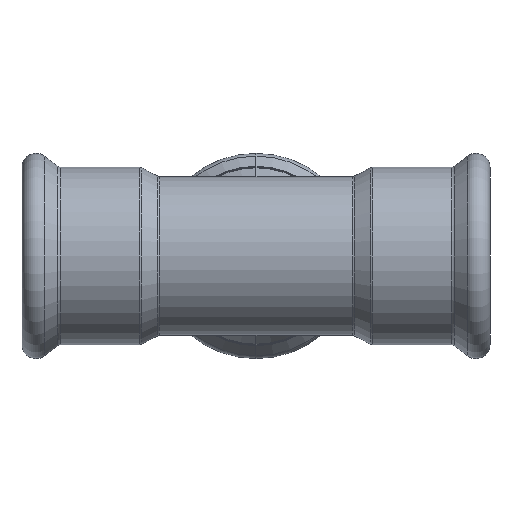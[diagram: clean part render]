
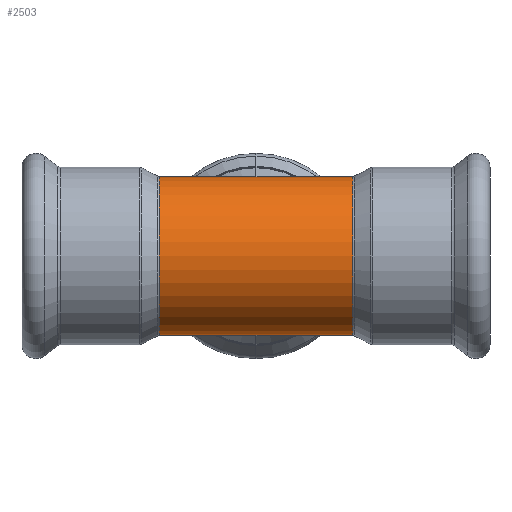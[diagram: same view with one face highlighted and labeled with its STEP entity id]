
A CAD part, front view. The second image highlights one B-rep face of the part: STEP entity #2503.
In plain terms, the highlighted cylindrical face has radius 17.15 mm (diameter 34.3 mm), a partial arc.
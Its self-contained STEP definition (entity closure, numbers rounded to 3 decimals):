
#130 = VERTEX_POINT ( 'NONE', #4065 ) ;
#136 = ORIENTED_EDGE ( 'NONE', *, *, #3514, .T. ) ;
#272 = DIRECTION ( 'NONE',  ( 0., 0., 1. ) ) ;
#324 = VECTOR ( 'NONE', #2237, 1000. ) ;
#467 = CIRCLE ( 'NONE', #1486, 17.15 ) ;
#665 = VECTOR ( 'NONE', #1579, 1000. ) ;
#697 = DIRECTION ( 'NONE',  ( 0., 0., 1. ) ) ;
#772 = CARTESIAN_POINT ( 'NONE',  ( -20.877, 0., 0. ) ) ;
#955 = CARTESIAN_POINT ( 'NONE',  ( 0., 0., -17.15 ) ) ;
#1009 = CARTESIAN_POINT ( 'NONE',  ( 0., 0., -17.15 ) ) ;
#1116 = CARTESIAN_POINT ( 'NONE',  ( 20.877, 0., -17.15 ) ) ;
#1153 = VECTOR ( 'NONE', #1985, 1000. ) ;
#1270 = FACE_OUTER_BOUND ( 'NONE', #1453, .T. ) ;
#1275 = EDGE_CURVE ( 'NONE', #2415, #2097, #2601, .T. ) ;
#1286 = CARTESIAN_POINT ( 'NONE',  ( 0., 0., 17.15 ) ) ;
#1357 = DIRECTION ( 'NONE',  ( -1., 0., 0. ) ) ;
#1453 = EDGE_LOOP ( 'NONE', ( #1998, #3942, #136, #2999, #2068, #3643 ) ) ;
#1486 = AXIS2_PLACEMENT_3D ( 'NONE', #772, #1693, #1720 ) ;
#1579 = DIRECTION ( 'NONE',  ( -1., 0., 0. ) ) ;
#1678 = EDGE_CURVE ( 'NONE', #3066, #130, #1919, .T. ) ;
#1693 = DIRECTION ( 'NONE',  ( 1., 0., 0. ) ) ;
#1720 = DIRECTION ( 'NONE',  ( 0., 0., 1. ) ) ;
#1744 = CARTESIAN_POINT ( 'NONE',  ( -20.877, 0., 17.15 ) ) ;
#1762 = CARTESIAN_POINT ( 'NONE',  ( 0., 0., 17.15 ) ) ;
#1893 = CARTESIAN_POINT ( 'NONE',  ( 0., 0., -17.15 ) ) ;
#1919 = CIRCLE ( 'NONE', #2279, 17.15 ) ;
#1985 = DIRECTION ( 'NONE',  ( -1., 0., 0. ) ) ;
#1998 = ORIENTED_EDGE ( 'NONE', *, *, #3181, .F. ) ;
#2019 = EDGE_CURVE ( 'NONE', #3975, #2326, #3616, .T. ) ;
#2068 = ORIENTED_EDGE ( 'NONE', *, *, #3243, .T. ) ;
#2097 = VERTEX_POINT ( 'NONE', #3939 ) ;
#2237 = DIRECTION ( 'NONE',  ( -1., 0., 0. ) ) ;
#2279 = AXIS2_PLACEMENT_3D ( 'NONE', #3169, #3828, #272 ) ;
#2326 = VERTEX_POINT ( 'NONE', #1744 ) ;
#2415 = VERTEX_POINT ( 'NONE', #1893 ) ;
#2503 = ADVANCED_FACE ( 'NONE', ( #1270 ), #3850, .T. ) ;
#2601 = LINE ( 'NONE', #955, #324 ) ;
#2731 = AXIS2_PLACEMENT_3D ( 'NONE', #3587, #1357, #697 ) ;
#2999 = ORIENTED_EDGE ( 'NONE', *, *, #2019, .T. ) ;
#3045 = VECTOR ( 'NONE', #3792, 1000. ) ;
#3066 = VERTEX_POINT ( 'NONE', #1116 ) ;
#3169 = CARTESIAN_POINT ( 'NONE',  ( 20.877, 0., 0. ) ) ;
#3181 = EDGE_CURVE ( 'NONE', #3066, #2415, #3584, .T. ) ;
#3210 = CARTESIAN_POINT ( 'NONE',  ( 0., 0., 17.15 ) ) ;
#3243 = EDGE_CURVE ( 'NONE', #2326, #2097, #467, .T. ) ;
#3514 = EDGE_CURVE ( 'NONE', #130, #3975, #3579, .T. ) ;
#3579 = LINE ( 'NONE', #3210, #665 ) ;
#3584 = LINE ( 'NONE', #1009, #3045 ) ;
#3587 = CARTESIAN_POINT ( 'NONE',  ( 0., 0., 0. ) ) ;
#3616 = LINE ( 'NONE', #1286, #1153 ) ;
#3643 = ORIENTED_EDGE ( 'NONE', *, *, #1275, .F. ) ;
#3792 = DIRECTION ( 'NONE',  ( -1., 0., 0. ) ) ;
#3828 = DIRECTION ( 'NONE',  ( -1., 0., 0. ) ) ;
#3850 = CYLINDRICAL_SURFACE ( 'NONE', #2731, 17.15 ) ;
#3939 = CARTESIAN_POINT ( 'NONE',  ( -20.877, 0., -17.15 ) ) ;
#3942 = ORIENTED_EDGE ( 'NONE', *, *, #1678, .T. ) ;
#3975 = VERTEX_POINT ( 'NONE', #1762 ) ;
#4065 = CARTESIAN_POINT ( 'NONE',  ( 20.877, 0., 17.15 ) ) ;
